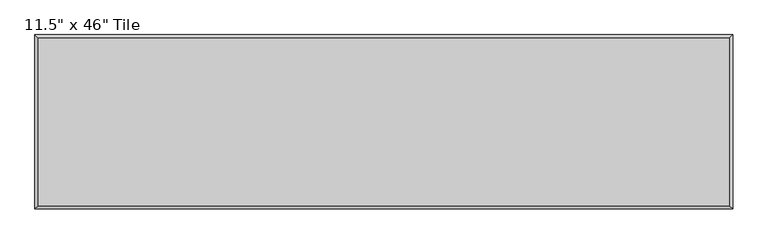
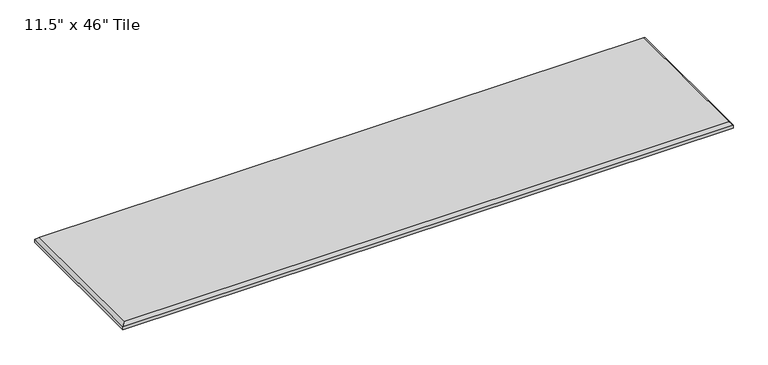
"""IFC4 building model written with IfcOpenShell, lengths in millimetres: proxy geometry."""

from ifc_helpers import new_model, si_unit, origin, place, context, project, spatial, faceted_brep, source, transform, mapped, element, save


def proxy_c236b629(model_context):
    return source(origin(), model_context, "Body", "Brep", [
        faceted_brep([(1137.4945313, -140.5445313, 12.0054687), (1137.4945313, 140.5445312, 12.0054687), (-19.8945312, 140.5445312, 12.0054687), (-19.8945312, -140.5445313, 12.0054687), (1143.0, 146.05, 0.0), (1143.0, -146.05, 0.0), (-25.4, -146.05, 0.0), (-25.4, 146.05, 0.0), (-25.4, 146.05, 6.5), (1143.0, 146.05, 6.5), (-25.4, -146.05, 6.5), (1143.0, -146.05, 6.5)], [[[0, 1, 2, 3]], [[4, 5, 6, 7]], [[4, 7, 8, 9]], [[7, 6, 10, 8]], [[6, 5, 11, 10]], [[5, 4, 9, 11]], [[9, 1, 0, 11]], [[1, 9, 8, 2]], [[2, 8, 10, 3]], [[11, 0, 3, 10]]]),
    ])


if __name__ == "__main__":
    model = new_model("IFC4")
    model_context = context("Model", 3, world=origin())
    ifc_project = project(units=[si_unit("LENGTHUNIT", "METRE", prefix="MILLI")], contexts=[model_context])
    site = spatial("IfcSite", under=ifc_project)
    building = spatial("IfcBuilding", under=site)
    placement = place(None, origin())
    proxy_shape = proxy_c236b629(model_context)
    element("IfcBuildingElementProxy", 1, Name="Wall-Panel-Kirei-EchoPanel-Echotile_Sync : 11.5\" x 46\" Tile", ObjectType="Wall-Panel-Kirei-EchoPanel-Echotile_Sync : 11.5\" x 46\" Tile", at=placement, inside=building, context=model_context, shape_type="MappedRepresentation", body=[
        mapped(proxy_shape, transform((0.0, 0.0, 0.0), x_axis=(1.0, 0.0, 0.0), y_axis=(0.0, 1.0, 0.0), z_axis=(0.0, 0.0, 1.0))),
    ])
    save(model, "model.ifc")
